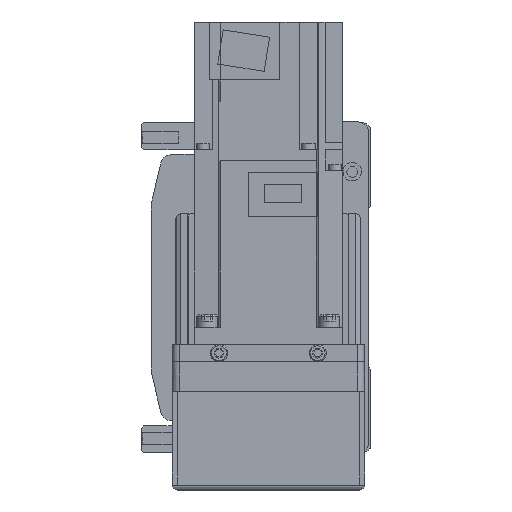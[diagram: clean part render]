
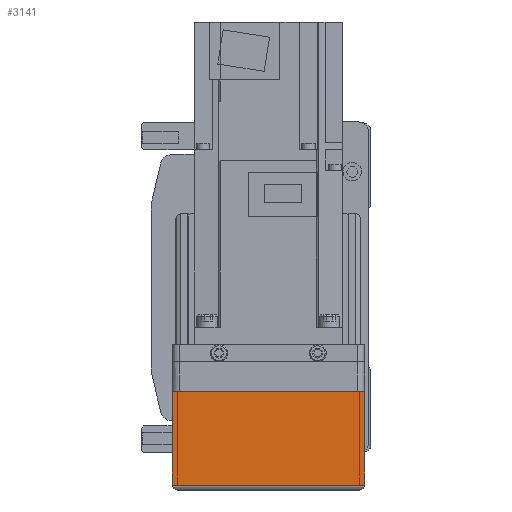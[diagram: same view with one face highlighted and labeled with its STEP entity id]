
A CAD part, left-side view. The second image highlights one B-rep face of the part: STEP entity #3141.
In plain terms, the highlighted planar face has unit normal (-1, 0, 0).
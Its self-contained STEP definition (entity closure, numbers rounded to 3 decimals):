
#3141 = ADVANCED_FACE( '', ( #6669 ), #6670, .F. );
#6669 = FACE_OUTER_BOUND( '', #10359, .T. );
#6670 = PLANE( '', #10360 );
#10359 = EDGE_LOOP( '', ( #19169, #19170, #19171, #19172 ) );
#10360 = AXIS2_PLACEMENT_3D( '', #19173, #19174, #19175 );
#19169 = ORIENTED_EDGE( '', *, *, #21644, .F. );
#19170 = ORIENTED_EDGE( '', *, *, #23078, .F. );
#19171 = ORIENTED_EDGE( '', *, *, #24138, .T. );
#19172 = ORIENTED_EDGE( '', *, *, #24117, .F. );
#19173 = CARTESIAN_POINT( '', ( -158., 36., 7. ) );
#19174 = DIRECTION( '', ( 1., 0., 0. ) );
#19175 = DIRECTION( '', ( 0., 0., -1. ) );
#21644 = EDGE_CURVE( '', #26170, #26172, #26173, .T. );
#23078 = EDGE_CURVE( '', #28348, #26170, #28391, .T. );
#24117 = EDGE_CURVE( '', #26172, #25281, #29706, .T. );
#24138 = EDGE_CURVE( '', #28348, #25281, #29728, .T. );
#25281 = VERTEX_POINT( '', #31446 );
#26170 = VERTEX_POINT( '', #33077 );
#26172 = VERTEX_POINT( '', #33080 );
#26173 = LINE( '', #33081, #33082 );
#28348 = VERTEX_POINT( '', #36405 );
#28391 = LINE( '', #36465, #36466 );
#29706 = LINE( '', #38362, #38363 );
#29728 = LINE( '', #38393, #38394 );
#31446 = CARTESIAN_POINT( '', ( -158., -39., -50. ) );
#33077 = CARTESIAN_POINT( '', ( -158., 39., -12.1 ) );
#33080 = CARTESIAN_POINT( '', ( -158., -39., -12.1 ) );
#33081 = CARTESIAN_POINT( '', ( -158., 50., -12.1 ) );
#33082 = VECTOR( '', #40016, 1000. );
#36405 = CARTESIAN_POINT( '', ( -158., 39., -50. ) );
#36465 = CARTESIAN_POINT( '', ( -158., 39., -50. ) );
#36466 = VECTOR( '', #41838, 1000. );
#38362 = CARTESIAN_POINT( '', ( -158., -39., -12.1 ) );
#38363 = VECTOR( '', #42869, 1000. );
#38393 = CARTESIAN_POINT( '', ( -158., 40., -50. ) );
#38394 = VECTOR( '', #42881, 1000. );
#40016 = DIRECTION( '', ( 0., -1., 0. ) );
#41838 = DIRECTION( '', ( 0., 0., 1. ) );
#42869 = DIRECTION( '', ( 0., 0., -1. ) );
#42881 = DIRECTION( '', ( 0., -1., 0. ) );
